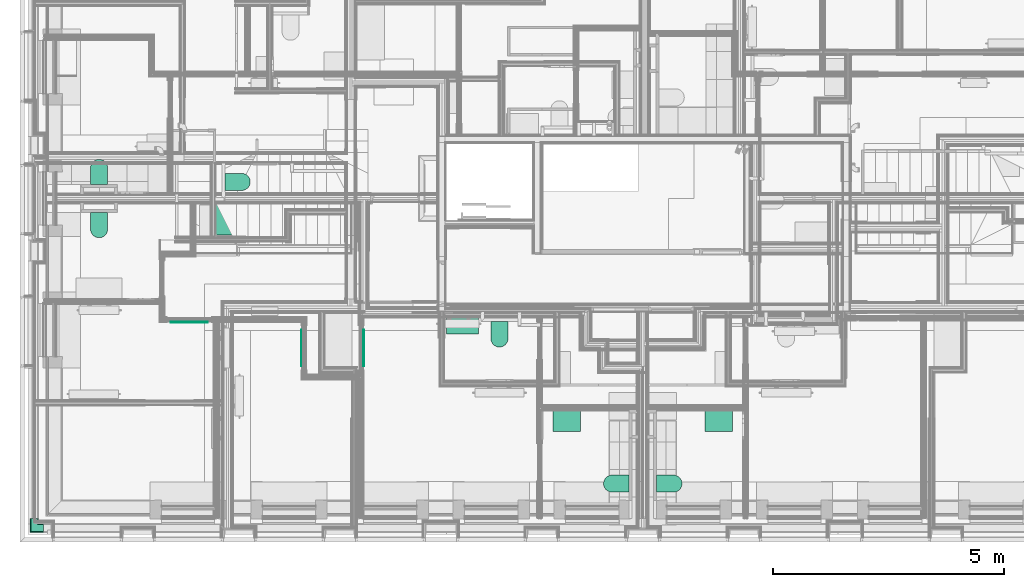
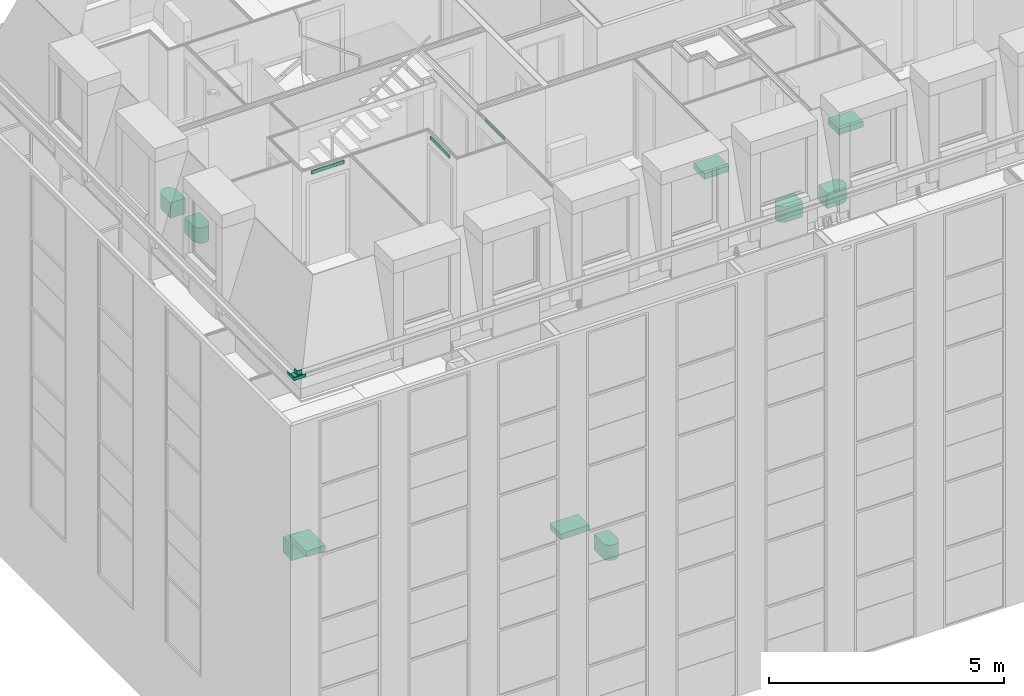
# One storey, part 155 of 169: 13 flow terminals, 1 flow fitting.
"""IFC2X3 building model written with IfcOpenShell, lengths in metres."""

from ifc_helpers import new_model, entity, si_unit, converted_unit, derived_unit, money_unit, direction, frame, origin_with_axes, place, context, subcontext, project, spatial, open_shell, faceted_brep, surface_model, material, type_object, element, save


model = new_model("IFC2X3")

# Units and contexts
model_context = context("Model", 3, precision=1e-05, world=origin_with_axes(), true_north=direction((0.0, 1.0)))
body_context = subcontext(model_context, "Body", "Model", "MODEL_VIEW", scale=1.0)
ifc_project = project(units=[si_unit("LENGTHUNIT", "METRE"), si_unit("AREAUNIT", "SQUARE_METRE"), si_unit("VOLUMEUNIT", "CUBIC_METRE"), si_unit("ABSORBEDDOSEUNIT", "GRAY"), si_unit("AMOUNTOFSUBSTANCEUNIT", "MOLE"), si_unit("DOSEEQUIVALENTUNIT", "SIEVERT"), si_unit("ELECTRICCAPACITANCEUNIT", "FARAD"), si_unit("ELECTRICCHARGEUNIT", "COULOMB"), si_unit("ELECTRICCONDUCTANCEUNIT", "SIEMENS"), si_unit("ELECTRICCURRENTUNIT", "AMPERE"), si_unit("ELECTRICRESISTANCEUNIT", "OHM"), si_unit("ELECTRICVOLTAGEUNIT", "VOLT"), si_unit("ENERGYUNIT", "JOULE"), si_unit("FORCEUNIT", "NEWTON"), si_unit("FREQUENCYUNIT", "HERTZ"), si_unit("ILLUMINANCEUNIT", "LUX"), si_unit("INDUCTANCEUNIT", "HENRY"), si_unit("LUMINOUSFLUXUNIT", "LUMEN"), si_unit("LUMINOUSINTENSITYUNIT", "CANDELA"), si_unit("MAGNETICFLUXDENSITYUNIT", "TESLA"), si_unit("MAGNETICFLUXUNIT", "WEBER"), si_unit("MASSUNIT", "GRAM"), converted_unit("PLANEANGLEUNIT", "degree", entity("IfcReal", 0.0174532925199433), si_unit("PLANEANGLEUNIT", "RADIAN"), dimensions=[0, 0, 0, 0, 0, 0, 0]), si_unit("POWERUNIT", "WATT"), si_unit("PRESSUREUNIT", "PASCAL"), si_unit("RADIOACTIVITYUNIT", "BECQUEREL"), si_unit("SOLIDANGLEUNIT", "STERADIAN"), si_unit("THERMODYNAMICTEMPERATUREUNIT", "KELVIN"), si_unit("TIMEUNIT", "SECOND"), derived_unit("ACCELERATIONUNIT", [(si_unit("LENGTHUNIT", "METRE"), 1), (si_unit("TIMEUNIT", "SECOND"), -2)]), derived_unit("ANGULARVELOCITYUNIT", [(converted_unit("PLANEANGLEUNIT", "degree", entity("IfcReal", 0.0174532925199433), si_unit("PLANEANGLEUNIT", "RADIAN"), dimensions=[0, 0, 0, 0, 0, 0, 0]), 1), (si_unit("TIMEUNIT", "SECOND"), -1)]), derived_unit("CURVATUREUNIT", [(converted_unit("PLANEANGLEUNIT", "degree", entity("IfcReal", 0.0174532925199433), si_unit("PLANEANGLEUNIT", "RADIAN"), dimensions=[0, 0, 0, 0, 0, 0, 0]), 1), (si_unit("LENGTHUNIT", "METRE"), -1)]), derived_unit("DYNAMICVISCOSITYUNIT", [(si_unit("PRESSUREUNIT", "PASCAL"), 1), (si_unit("TIMEUNIT", "SECOND"), 1)]), derived_unit("HEATFLUXDENSITYUNIT", [(si_unit("POWERUNIT", "WATT"), 1), (si_unit("LENGTHUNIT", "METRE"), -2)]), derived_unit("HEATINGVALUEUNIT", [(si_unit("ENERGYUNIT", "JOULE"), 1), (si_unit("MASSUNIT", "GRAM"), -1)]), derived_unit("INTEGERCOUNTRATEUNIT", [(si_unit("TIMEUNIT", "SECOND"), -1)]), derived_unit("IONCONCENTRATIONUNIT", [(si_unit("MASSUNIT", "GRAM"), 1), (si_unit("VOLUMEUNIT", "CUBIC_METRE"), -1)]), derived_unit("ISOTHERMALMOISTURECAPACITYUNIT", [(si_unit("VOLUMEUNIT", "CUBIC_METRE"), 1), (si_unit("MASSUNIT", "GRAM"), -1)]), derived_unit("KINEMATICVISCOSITYUNIT", [(si_unit("AREAUNIT", "SQUARE_METRE"), 1), (si_unit("TIMEUNIT", "SECOND"), -1)]), derived_unit("LINEARFORCEUNIT", [(si_unit("FORCEUNIT", "NEWTON"), 1), (si_unit("LENGTHUNIT", "METRE"), -1)]), derived_unit("LINEARMOMENTUNIT", [(si_unit("FORCEUNIT", "NEWTON"), 1), (si_unit("LENGTHUNIT", "METRE"), -1)]), derived_unit("LINEARSTIFFNESSUNIT", [(si_unit("FORCEUNIT", "NEWTON"), 1), (si_unit("LENGTHUNIT", "METRE"), -1)]), derived_unit("LINEARVELOCITYUNIT", [(si_unit("LENGTHUNIT", "METRE"), 1), (si_unit("TIMEUNIT", "SECOND"), -1)]), derived_unit("LUMINOUSINTENSITYDISTRIBUTIONUNIT", [(si_unit("LUMINOUSINTENSITYUNIT", "CANDELA"), 1), (si_unit("LUMINOUSFLUXUNIT", "LUMEN"), -1)]), derived_unit("MASSDENSITYUNIT", [(si_unit("MASSUNIT", "GRAM"), 1), (si_unit("VOLUMEUNIT", "CUBIC_METRE"), -1)]), derived_unit("MASSFLOWRATEUNIT", [(si_unit("MASSUNIT", "GRAM"), 1), (si_unit("TIMEUNIT", "SECOND"), -1)]), derived_unit("MASSPERLENGTHUNIT", [(si_unit("MASSUNIT", "GRAM"), 1), (si_unit("LENGTHUNIT", "METRE"), -1)]), derived_unit("MODULUSOFELASTICITYUNIT", [(si_unit("FORCEUNIT", "NEWTON"), 1), (si_unit("AREAUNIT", "SQUARE_METRE"), -1)]), derived_unit("MODULUSOFLINEARSUBGRADEREACTIONUNIT", [(si_unit("FORCEUNIT", "NEWTON"), 1), (si_unit("LENGTHUNIT", "METRE"), -2)]), derived_unit("MODULUSOFROTATIONALSUBGRADEREACTIONUNIT", [(si_unit("FORCEUNIT", "NEWTON"), 1), (si_unit("LENGTHUNIT", "METRE"), 1)]), derived_unit("MODULUSOFSUBGRADEREACTIONUNIT", [(si_unit("FORCEUNIT", "NEWTON"), 1), (si_unit("VOLUMEUNIT", "CUBIC_METRE"), -1)]), derived_unit("MOISTUREDIFFUSIVITYUNIT", [(si_unit("VOLUMEUNIT", "CUBIC_METRE"), 1), (si_unit("TIMEUNIT", "SECOND"), -1)]), derived_unit("MOLECULARWEIGHTUNIT", [(si_unit("MASSUNIT", "GRAM"), 1), (si_unit("AMOUNTOFSUBSTANCEUNIT", "MOLE"), -1)]), derived_unit("PLANARFORCEUNIT", [(si_unit("FORCEUNIT", "NEWTON"), 1), (si_unit("LENGTHUNIT", "METRE"), -2)]), derived_unit("ROTATIONALFREQUENCYUNIT", [(si_unit("TIMEUNIT", "SECOND"), -1)]), derived_unit("ROTATIONALMASSUNIT", [(si_unit("MASSUNIT", "GRAM"), 1), (si_unit("LENGTHUNIT", "METRE"), 2)]), derived_unit("ROTATIONALSTIFFNESSUNIT", [(si_unit("FORCEUNIT", "NEWTON"), 1), (si_unit("LENGTHUNIT", "METRE"), 1), (converted_unit("PLANEANGLEUNIT", "degree", entity("IfcReal", 0.0174532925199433), si_unit("PLANEANGLEUNIT", "RADIAN"), dimensions=[0, 0, 0, 0, 0, 0, 0]), -1)]), derived_unit("SECTIONAREAINTEGRALUNIT", [(si_unit("LENGTHUNIT", "METRE"), 5)]), derived_unit("SECTIONMODULUSUNIT", [(si_unit("LENGTHUNIT", "METRE"), 3)]), derived_unit("SHEARMODULUSUNIT", [(si_unit("FORCEUNIT", "NEWTON"), 1), (si_unit("AREAUNIT", "SQUARE_METRE"), -1)]), derived_unit("SOUNDPOWERUNIT", [(si_unit("ENERGYUNIT", "JOULE"), 1), (si_unit("TIMEUNIT", "SECOND"), -1)]), derived_unit("SPECIFICHEATCAPACITYUNIT", [(si_unit("FORCEUNIT", "NEWTON"), 1), (si_unit("MASSUNIT", "GRAM"), -1), (si_unit("THERMODYNAMICTEMPERATUREUNIT", "KELVIN"), -1)]), derived_unit("TEMPERATUREGRADIENTUNIT", [(si_unit("THERMODYNAMICTEMPERATUREUNIT", "KELVIN"), 1), (si_unit("LENGTHUNIT", "METRE"), -1)]), derived_unit("THERMALADMITTANCEUNIT", [(si_unit("POWERUNIT", "WATT"), 1), (si_unit("AREAUNIT", "SQUARE_METRE"), -1), (si_unit("THERMODYNAMICTEMPERATUREUNIT", "KELVIN"), -1)]), derived_unit("THERMALCONDUCTANCEUNIT", [(si_unit("POWERUNIT", "WATT"), 1), (si_unit("LENGTHUNIT", "METRE"), -1), (si_unit("THERMODYNAMICTEMPERATUREUNIT", "KELVIN"), -1)]), derived_unit("THERMALEXPANSIONCOEFFICIENTUNIT", [(si_unit("THERMODYNAMICTEMPERATUREUNIT", "KELVIN"), -1)]), derived_unit("THERMALRESISTANCEUNIT", [(si_unit("AREAUNIT", "SQUARE_METRE"), 1), (si_unit("POWERUNIT", "WATT"), -1)]), derived_unit("THERMALTRANSMITTANCEUNIT", [(si_unit("POWERUNIT", "WATT"), 1), (si_unit("AREAUNIT", "SQUARE_METRE"), -1), (si_unit("THERMODYNAMICTEMPERATUREUNIT", "KELVIN"), -1)]), derived_unit("TORQUEUNIT", [(si_unit("FORCEUNIT", "NEWTON"), 1), (si_unit("LENGTHUNIT", "METRE"), 1)]), derived_unit("VAPORPERMEABILITYUNIT", [(si_unit("MASSUNIT", "GRAM"), 1), (si_unit("TIMEUNIT", "SECOND"), -1)]), derived_unit("VOLUMETRICFLOWRATEUNIT", [(si_unit("VOLUMEUNIT", "CUBIC_METRE"), 1), (si_unit("TIMEUNIT", "SECOND"), -1)]), derived_unit("WARPINGCONSTANTUNIT", [(si_unit("LENGTHUNIT", "METRE"), 6)]), derived_unit("WARPINGMOMENTUNIT", [(si_unit("FORCEUNIT", "NEWTON"), 1), (si_unit("LENGTHUNIT", "METRE"), 2)]), money_unit("GBP")], contexts=[model_context])

# Site, building, storey, space
site_placement = place(None, origin_with_axes())
site = spatial("IfcSite", under=ifc_project, at=site_placement, Name="Site", CompositionType="ELEMENT")
building_placement = place(site_placement, origin_with_axes())
building = spatial("IfcBuilding", under=site, at=building_placement, Name="Building01", CompositionType="ELEMENT")
storey_placement = place(building_placement, frame((0.0, 0.0, 5.15), z_axis=(0.0, 0.0, 1.0), x_axis=(1.0, 0.0, 0.0)))
storey = spatial("IfcBuildingStorey", under=building, at=storey_placement, Name="1F", CompositionType="ELEMENT", Elevation=5.15)
space_1_placement = place(storey_placement, frame((12.175, 4.189428, 9.86), z_axis=(0.0, 0.0, 1.0), x_axis=(0.0, 1.0, 0.0)))
space_1 = spatial("IfcSpace", under=storey, at=space_1_placement, Name="25", CompositionType="ELEMENT", InteriorOrExteriorSpace="NOTDEFINED")

# Flow terminals
ifc_material_1 = material(Name="M_BSUK_Ventilation")
air_terminal_type = type_object("IfcAirTerminalType", Name="M-RectBarSlotsEndGrille-BarSlots", PredefinedType="REGISTER")
for number, where, z_axis, x_axis, name in (
    (1, (3.669976, 4.779939, 12.223), (0.0, 0.0, 1.0), (0.0, -1.0, 0.0), "M-RectBarSlotsEndGrille-BarSlots"),
    (2, (6.120098, 4.209939, 12.223), (0.0, 0.0, 1.0), (-1.0, 0.0, 0.0), "M-RectBarSlotsEndGrille-BarSlots"),
):
    element("IfcFlowTerminal", number, at=place(storey_placement, frame(where, z_axis=z_axis, x_axis=x_axis)), inside=space_1, type_object=air_terminal_type, material=ifc_material_1, Name=name, ObjectType="M-RectBarSlotsEndGrille-BarSlots", context=body_context, shape_type="SurfaceModel", body=[
        surface_model("IfcShellBasedSurfaceModel", [(0.02, -0.36, -0.0349), (0.02, -0.36, -0.036), (0.02, 0.36, -0.036), (0.02, 0.36, -0.0349), (0.02, -0.36, 0.036), (0.02, -0.36, 0.0349), (0.02, 0.36, 0.0349), (0.02, 0.36, 0.036), (0.02, -0.36, -0.0277), (0.02, -0.36, -0.0299), (0.02, 0.36, -0.0299), (0.02, 0.36, -0.0277), (0.02, -0.36, -0.0205), (0.02, -0.36, -0.0227), (0.02, 0.36, -0.0227), (0.02, 0.36, -0.0205), (0.02, -0.36, -0.0133), (0.02, -0.36, -0.0155), (0.02, 0.36, -0.0155), (0.02, 0.36, -0.0133), (0.02, -0.36, -0.0061), (0.02, -0.36, -0.0083), (0.02, 0.36, -0.0083), (0.02, 0.36, -0.0061), (0.02, -0.36, 0.0011), (0.02, -0.36, -0.0011), (0.02, 0.36, -0.0011), (0.02, 0.36, 0.0011), (0.02, -0.36, 0.0083), (0.02, -0.36, 0.0061), (0.02, 0.36, 0.0061), (0.02, 0.36, 0.0083), (0.02, -0.36, 0.0155), (0.02, -0.36, 0.0133), (0.02, 0.36, 0.0133), (0.02, 0.36, 0.0155), (0.02, -0.36, 0.0227), (0.02, -0.36, 0.0205), (0.02, 0.36, 0.0205), (0.02, 0.36, 0.0227), (0.02, -0.36, 0.0299), (0.02, -0.36, 0.0277), (0.02, 0.36, 0.0277), (0.02, 0.36, 0.0299), (0.02, -0.4, -0.04), (0.02, -0.4, 0.04), (0.0, -0.4, 0.04), (0.0, -0.4, -0.04), (0.02, 0.4, 0.04), (0.0, 0.4, 0.04), (0.02, 0.4, -0.04), (0.0, 0.4, -0.04)], [open_shell([[[0, 1, 2, 3]], [[4, 5, 6, 7]], [[8, 9, 10, 11]], [[12, 13, 14, 15]], [[16, 17, 18, 19]], [[20, 21, 22, 23]], [[24, 25, 26, 27]], [[28, 29, 30, 31]], [[32, 33, 34, 35]], [[36, 37, 38, 39]], [[40, 41, 42, 43]], [[44, 45, 46, 47]], [[45, 48, 49, 46]], [[50, 44, 47, 51]], [[48, 50, 51, 49]], [[44, 50, 48, 45], [7, 2, 1, 4]]])]),
    ])
flow_terminal_1_placement = place(storey_placement, frame((7.439998, 4.209939, 12.223), z_axis=(0.0, 0.0, 1.0), x_axis=(-1.0, 0.0, 0.0)))
element("IfcFlowTerminal", 3, at=flow_terminal_1_placement, inside=space_1, type_object=air_terminal_type, material=ifc_material_1, Name="M-RectBarSlotsEndGrille-BarSlots", ObjectType="M-RectBarSlotsEndGrille-BarSlots", context=body_context, shape_type="SurfaceModel", body=[
    surface_model("IfcShellBasedSurfaceModel", [(-0.02, -0.36, -0.0349), (-0.02, -0.36, -0.036), (-0.02, 0.36, -0.036), (-0.02, 0.36, -0.0349), (-0.02, -0.36, 0.036), (-0.02, -0.36, 0.0349), (-0.02, 0.36, 0.0349), (-0.02, 0.36, 0.036), (-0.02, -0.36, -0.0277), (-0.02, -0.36, -0.0299), (-0.02, 0.36, -0.0299), (-0.02, 0.36, -0.0277), (-0.02, -0.36, -0.0205), (-0.02, -0.36, -0.0227), (-0.02, 0.36, -0.0227), (-0.02, 0.36, -0.0205), (-0.02, -0.36, -0.0133), (-0.02, -0.36, -0.0155), (-0.02, 0.36, -0.0155), (-0.02, 0.36, -0.0133), (-0.02, -0.36, -0.0061), (-0.02, -0.36, -0.0083), (-0.02, 0.36, -0.0083), (-0.02, 0.36, -0.0061), (-0.02, -0.36, 0.0011), (-0.02, -0.36, -0.0011), (-0.02, 0.36, -0.0011), (-0.02, 0.36, 0.0011), (-0.02, -0.36, 0.0083), (-0.02, -0.36, 0.0061), (-0.02, 0.36, 0.0061), (-0.02, 0.36, 0.0083), (-0.02, -0.36, 0.0155), (-0.02, -0.36, 0.0133), (-0.02, 0.36, 0.0133), (-0.02, 0.36, 0.0155), (-0.02, -0.36, 0.0227), (-0.02, -0.36, 0.0205), (-0.02, 0.36, 0.0205), (-0.02, 0.36, 0.0227), (-0.02, -0.36, 0.0299), (-0.02, -0.36, 0.0277), (-0.02, 0.36, 0.0277), (-0.02, 0.36, 0.0299), (-0.02, -0.4, -0.04), (-0.02, -0.4, 0.04), (0.0, -0.4, 0.04), (0.0, -0.4, -0.04), (-0.02, 0.4, 0.04), (0.0, 0.4, 0.04), (-0.02, 0.4, -0.04), (0.0, 0.4, -0.04)], [open_shell([[[0, 1, 2, 3]], [[4, 5, 6, 7]], [[8, 9, 10, 11]], [[12, 13, 14, 15]], [[16, 17, 18, 19]], [[20, 21, 22, 23]], [[24, 25, 26, 27]], [[28, 29, 30, 31]], [[32, 33, 34, 35]], [[36, 37, 38, 39]], [[40, 41, 42, 43]], [[44, 45, 46, 47]], [[45, 48, 49, 46]], [[50, 44, 47, 51]], [[48, 50, 51, 49]], [[44, 50, 48, 45], [7, 2, 1, 4]]])]),
])

# Flow fitting
ifc_material_2 = material(Name="A_BSUK_RainwaterDrainageSystems")
pipe_fitting_type = type_object("IfcPipeFittingType", Name="A-RainwaterDrainageSystems-GutterCorner", PredefinedType="NOTDEFINED")
flow_fitting_placement = place(storey_placement, frame((0.514346, 0.514347, 10.629268), z_axis=(0.0, 0.0, 1.0), x_axis=(-1.0, 0.0, 0.0)))
element("IfcFlowFitting", 4, at=flow_fitting_placement, inside=storey, type_object=pipe_fitting_type, material=ifc_material_2, Name="A-RainwaterDrainageSystems-GutterCorner", ObjectType="A-RainwaterDrainageSystems-GutterCorner", context=body_context, shape_type="Brep", body=[
    faceted_brep([(0.111195, 1e-06, 0.099145), (0.116849, 1e-06, 0.099145), (0.129902, 1e-06, 0.0), (0.281294, 1e-06, 0.0), (0.294346, 1e-06, 0.099145), (0.3, 1e-06, 0.099145), (0.3, 1e-06, 0.100732), (0.292954, 1e-06, 0.100732), (0.279902, 1e-06, 0.001588), (0.131294, 1e-06, 0.001588), (0.118241, 1e-06, 0.100732), (0.111195, 1e-06, 0.100732), (0.0, 0.111195, 0.100732), (0.0, 0.118241, 0.100732), (0.0, 0.131294, 0.001588), (0.0, 0.279902, 0.001588), (0.0, 0.292954, 0.100732), (0.0, 0.300001, 0.100732), (0.0, 0.300001, 0.099145), (0.0, 0.294347, 0.099145), (0.0, 0.281294, 0.0), (0.0, 0.129902, 0.0), (0.0, 0.116849, 0.099145), (0.0, 0.111195, 0.099145), (0.111195, 0.111195, 0.100732), (0.111195, 0.111195, 0.099145), (0.118241, 0.118241, 0.100732), (0.131294, 0.131294, 0.001588), (0.279902, 0.279902, 0.001588), (0.292954, 0.292954, 0.100732), (0.3, 0.300001, 0.100732), (0.3, 0.300001, 0.099145), (0.294346, 0.294347, 0.099145), (0.281294, 0.281294, 0.0), (0.129902, 0.129902, 0.0), (0.116849, 0.116849, 0.099145)], [[[0, 1, 2, 3, 4, 5, 6, 7, 8, 9, 10, 11]], [[12, 13, 14, 15, 16, 17, 18, 19, 20, 21, 22, 23]], [[24, 12, 23, 25]], [[10, 26, 13, 12, 24, 11]], [[27, 14, 13, 26]], [[9, 27, 26, 10]], [[8, 28, 15, 14, 27, 9]], [[29, 16, 15, 28]], [[7, 29, 28, 8]], [[6, 30, 17, 16, 29, 7]], [[31, 18, 17, 30]], [[5, 31, 30, 6]], [[4, 32, 19, 18, 31, 5]], [[33, 20, 19, 32]], [[3, 33, 32, 4]], [[2, 34, 21, 20, 33, 3]], [[35, 22, 21, 34]], [[1, 35, 34, 2]], [[0, 25, 23, 22, 35, 1]], [[11, 24, 25, 0]]]),
])

# Space
space_2_placement = place(storey_placement, frame((17.73844, 7.349915, 9.86), z_axis=(0.0, 0.0, 1.0), x_axis=(0.0, -1.0, 0.0)))
space_2 = spatial("IfcSpace", under=storey, at=space_2_placement, Name="24", CompositionType="ELEMENT", InteriorOrExteriorSpace="NOTDEFINED")

# Flow terminals
sanitary_terminal_type_1 = type_object("IfcSanitaryTerminalType", Name="SHE_A-Sink_47x60", PredefinedType="NOTDEFINED")
flow_terminal_2_placement = place(storey_placement, frame((15.15, 2.634761, 10.650999), z_axis=(0.0, 0.0, 1.0), x_axis=(0.0, -1.0, 0.0)))
element("IfcFlowTerminal", 5, at=flow_terminal_2_placement, inside=space_2, type_object=sanitary_terminal_type_1, Name="24", ObjectType="SHE_A-Sink_47x60", context=body_context, shape_type="Brep", body=[
    faceted_brep([(-0.235, 0.3, -0.075), (-0.235, 0.3, 0.075), (0.235, 0.3, 0.075), (0.235, 0.3, -0.075), (0.235, -0.3, 0.075), (0.235, -0.3, -0.075), (-0.235, -0.3, 0.075), (-0.235, -0.3, -0.075)], [[[0, 1, 2, 3]], [[3, 2, 4, 5]], [[5, 4, 6, 7]], [[7, 6, 1, 0]], [[1, 6, 4, 2]], [[3, 5, 7, 0]]]),
])
flow_terminal_3_placement = place(storey_placement, frame((11.85, 2.634761, 10.650999), z_axis=(0.0, 0.0, 1.0), x_axis=(0.0, 1.0, 0.0)))
element("IfcFlowTerminal", 6, at=flow_terminal_3_placement, inside=space_1, type_object=sanitary_terminal_type_1, Name="25", ObjectType="SHE_A-Sink_47x60", context=body_context, shape_type="Brep", body=[
    faceted_brep([(-0.235, 0.3, -0.075), (-0.235, 0.3, 0.075), (0.235, 0.3, 0.075), (0.235, 0.3, -0.075), (-0.235, -0.3, -0.075), (-0.235, -0.3, 0.075), (0.235, -0.3, -0.075), (0.235, -0.3, 0.075)], [[[0, 1, 2, 3]], [[4, 5, 1, 0]], [[6, 7, 5, 4]], [[3, 2, 7, 6]], [[1, 5, 7, 2]], [[3, 6, 4, 0]]]),
])

# Space
space_3_placement = place(storey_placement, frame((12.15, 4.98, 0.017975), z_axis=(0.0, 0.0, 1.0), x_axis=(-1.0, 0.0, 0.0)))
space_3 = spatial("IfcSpace", under=storey, at=space_3_placement, Name="05", CompositionType="ELEMENT", InteriorOrExteriorSpace="NOTDEFINED")

# Flow terminal
sanitary_terminal_type_2 = type_object("IfcSanitaryTerminalType", Name="SHE_A-Toilet_base", PredefinedType="NOTDEFINED")
flow_terminal_4_placement = place(storey_placement, frame((10.392528, 4.504997, 0.2), z_axis=(0.0, 0.0, 1.0), x_axis=(0.0, -1.0, 0.0)))
element("IfcFlowTerminal", 7, at=flow_terminal_4_placement, inside=space_3, type_object=sanitary_terminal_type_2, Name="05", ObjectType="SHE_A-Toilet_base", context=body_context, shape_type="Brep", body=[
    faceted_brep([(0.089995, 0.185008, -0.2), (0.126088, 0.181454, -0.2), (0.160795, 0.170926, -0.2), (0.19278, 0.153829, -0.2), (0.220816, 0.130821, -0.2), (0.243824, 0.102785, -0.2), (0.26092, 0.0708, -0.2), (0.271448, 0.036093, -0.2), (0.275003, 0.0, -0.2), (0.271448, -0.036093, -0.2), (0.26092, -0.0708, -0.2), (0.243824, -0.102785, -0.2), (0.220816, -0.130821, -0.2), (0.19278, -0.153829, -0.2), (0.160795, -0.170926, -0.2), (0.126088, -0.181454, -0.2), (0.089995, -0.185009, -0.2), (-0.275003, -0.185009, -0.2), (-0.275003, 0.185008, -0.2), (-0.275003, 0.185008, 0.2), (-0.275003, -0.185009, 0.2), (0.089995, -0.185009, 0.2), (0.126088, -0.181454, 0.2), (0.160795, -0.170926, 0.2), (0.19278, -0.153829, 0.2), (0.220816, -0.130821, 0.2), (0.243824, -0.102785, 0.2), (0.26092, -0.0708, 0.2), (0.271448, -0.036093, 0.2), (0.275003, 0.0, 0.2), (0.271448, 0.036093, 0.2), (0.26092, 0.0708, 0.2), (0.243824, 0.102785, 0.2), (0.220816, 0.130821, 0.2), (0.19278, 0.153829, 0.2), (0.160795, 0.170926, 0.2), (0.126088, 0.181454, 0.2), (0.089995, 0.185008, 0.2)], [[[0, 1, 2, 3, 4, 5, 6, 7, 8, 9, 10, 11, 12, 13, 14, 15, 16, 17, 18]], [[19, 20, 21, 22, 23, 24, 25, 26, 27, 28, 29, 30, 31, 32, 33, 34, 35, 36, 37]], [[15, 22, 21, 16]], [[14, 23, 22, 15]], [[13, 24, 23, 14]], [[12, 25, 24, 13]], [[11, 26, 25, 12]], [[10, 27, 26, 11]], [[9, 28, 27, 10]], [[8, 29, 28, 9]], [[7, 30, 29, 8]], [[6, 31, 30, 7]], [[5, 32, 31, 6]], [[4, 33, 32, 5]], [[3, 34, 33, 4]], [[2, 35, 34, 3]], [[1, 36, 35, 2]], [[0, 37, 36, 1]], [[16, 21, 20, 17]], [[17, 20, 19, 18]], [[18, 19, 37, 0]]]),
])

# Space
space_4_placement = place(storey_placement, frame((0.318, 8.21067, 0.017975), z_axis=(0.0, 0.0, 1.0), x_axis=(0.0, -1.0, 0.0)))
space_4 = spatial("IfcSpace", under=storey, at=space_4_placement, Name="06", CompositionType="ELEMENT", InteriorOrExteriorSpace="NOTDEFINED")

# Flow terminal
flow_terminal_5_placement = place(storey_placement, frame((4.715733, 7.810661, 0.2), z_axis=(0.0, 0.0, 1.0), x_axis=(1.0, 0.0, 0.0)))
element("IfcFlowTerminal", 8, at=flow_terminal_5_placement, inside=space_4, type_object=sanitary_terminal_type_2, Name="06", ObjectType="SHE_A-Toilet_base", context=body_context, shape_type="Brep", body=[
    faceted_brep([(0.089995, 0.185008, -0.2), (0.126088, 0.181454, -0.2), (0.160795, 0.170926, -0.2), (0.19278, 0.153829, -0.2), (0.220816, 0.130821, -0.2), (0.243824, 0.102785, -0.2), (0.26092, 0.0708, -0.2), (0.271448, 0.036093, -0.2), (0.275003, 0.0, -0.2), (0.271448, -0.036093, -0.2), (0.26092, -0.0708, -0.2), (0.243824, -0.102785, -0.2), (0.220816, -0.130821, -0.2), (0.19278, -0.153829, -0.2), (0.160795, -0.170926, -0.2), (0.126088, -0.181454, -0.2), (0.089995, -0.185009, -0.2), (-0.275003, -0.185009, -0.2), (-0.275003, 0.185008, -0.2), (-0.275003, 0.185008, 0.2), (-0.275003, -0.185009, 0.2), (0.089995, -0.185009, 0.2), (0.126088, -0.181454, 0.2), (0.160795, -0.170926, 0.2), (0.19278, -0.153829, 0.2), (0.220816, -0.130821, 0.2), (0.243824, -0.102785, 0.2), (0.26092, -0.0708, 0.2), (0.271448, -0.036093, 0.2), (0.275003, 0.0, 0.2), (0.271448, 0.036093, 0.2), (0.26092, 0.0708, 0.2), (0.243824, 0.102785, 0.2), (0.220816, 0.130821, 0.2), (0.19278, 0.153829, 0.2), (0.160795, 0.170926, 0.2), (0.126088, 0.181454, 0.2), (0.089995, 0.185008, 0.2)], [[[0, 1, 2, 3, 4, 5, 6, 7, 8, 9, 10, 11, 12, 13, 14, 15, 16, 17, 18]], [[19, 20, 21, 22, 23, 24, 25, 26, 27, 28, 29, 30, 31, 32, 33, 34, 35, 36, 37]], [[15, 22, 21, 16]], [[14, 23, 22, 15]], [[13, 24, 23, 14]], [[12, 25, 24, 13]], [[11, 26, 25, 12]], [[10, 27, 26, 11]], [[9, 28, 27, 10]], [[8, 29, 28, 9]], [[7, 30, 29, 8]], [[6, 31, 30, 7]], [[5, 32, 31, 6]], [[4, 33, 32, 5]], [[3, 34, 33, 4]], [[2, 35, 34, 3]], [[1, 36, 35, 2]], [[0, 37, 36, 1]], [[16, 21, 20, 17]], [[17, 20, 19, 18]], [[18, 19, 37, 0]]]),
])

# Space
space_5_placement = place(storey_placement, frame((3.039976, 6.279939, 9.86), z_axis=(0.0, 0.0, 1.0), x_axis=(1.0, 0.0, 0.0)))
space_5 = spatial("IfcSpace", under=storey, at=space_5_placement, Name="bath", CompositionType="ELEMENT", InteriorOrExteriorSpace="NOTDEFINED")

# Flow terminal
flow_terminal_6_placement = place(storey_placement, frame((1.715102, 6.874935, 10.03), z_axis=(0.0, 0.0, 1.0), x_axis=(0.0, -1.0, 0.0)))
element("IfcFlowTerminal", 9, at=flow_terminal_6_placement, inside=space_5, type_object=sanitary_terminal_type_2, Name="25", ObjectType="SHE_A-Toilet_base", context=body_context, shape_type="Brep", body=[
    faceted_brep([(0.089995, 0.185008, -0.2), (0.126088, 0.181454, -0.2), (0.160795, 0.170926, -0.2), (0.19278, 0.153829, -0.2), (0.220816, 0.130821, -0.2), (0.243824, 0.102785, -0.2), (0.26092, 0.0708, -0.2), (0.271448, 0.036093, -0.2), (0.275003, 0.0, -0.2), (0.271448, -0.036093, -0.2), (0.26092, -0.0708, -0.2), (0.243824, -0.102785, -0.2), (0.220816, -0.130821, -0.2), (0.19278, -0.153829, -0.2), (0.160795, -0.170926, -0.2), (0.126088, -0.181454, -0.2), (0.089995, -0.185009, -0.2), (-0.275003, -0.185009, -0.2), (-0.275003, 0.185008, -0.2), (-0.275003, 0.185008, 0.2), (-0.275003, -0.185009, 0.2), (0.089995, -0.185009, 0.2), (0.126088, -0.181454, 0.2), (0.160795, -0.170926, 0.2), (0.19278, -0.153829, 0.2), (0.220816, -0.130821, 0.2), (0.243824, -0.102785, 0.2), (0.26092, -0.0708, 0.2), (0.271448, -0.036093, 0.2), (0.275003, 0.0, 0.2), (0.271448, 0.036093, 0.2), (0.26092, 0.0708, 0.2), (0.243824, 0.102785, 0.2), (0.220816, 0.130821, 0.2), (0.19278, 0.153829, 0.2), (0.160795, 0.170926, 0.2), (0.126088, 0.181454, 0.2), (0.089995, 0.185008, 0.2)], [[[0, 1, 2, 3, 4, 5, 6, 7, 8, 9, 10, 11, 12, 13, 14, 15, 16, 17, 18]], [[19, 20, 21, 22, 23, 24, 25, 26, 27, 28, 29, 30, 31, 32, 33, 34, 35, 36, 37]], [[15, 22, 21, 16]], [[14, 23, 22, 15]], [[13, 24, 23, 14]], [[12, 25, 24, 13]], [[11, 26, 25, 12]], [[10, 27, 26, 11]], [[9, 28, 27, 10]], [[8, 29, 28, 9]], [[7, 30, 29, 8]], [[6, 31, 30, 7]], [[5, 32, 31, 6]], [[4, 33, 32, 5]], [[3, 34, 33, 4]], [[2, 35, 34, 3]], [[1, 36, 35, 2]], [[0, 37, 36, 1]], [[16, 21, 20, 17]], [[17, 20, 19, 18]], [[18, 19, 37, 0]]]),
])

# Space
space_6_placement = place(storey_placement, frame((15.69, 2.869761, 9.86), z_axis=(0.0, 0.0, 1.0), x_axis=(-1.0, 0.0, 0.0)))
space_6 = spatial("IfcSpace", under=storey, at=space_6_placement, Name="ensuite", CompositionType="ELEMENT", InteriorOrExteriorSpace="NOTDEFINED")

# Flow terminal
flow_terminal_7_placement = place(storey_placement, frame((14.075001, 1.269753, 10.026), z_axis=(0.0, 0.0, 1.0), x_axis=(-1.0, 0.0, 0.0)))
element("IfcFlowTerminal", 10, at=flow_terminal_7_placement, inside=space_6, type_object=sanitary_terminal_type_2, Name="24", ObjectType="SHE_A-Toilet_base", context=body_context, shape_type="Brep", body=[
    faceted_brep([(0.275003, 0.185008, -0.2), (0.275003, -0.185009, -0.2), (-0.089995, -0.185009, -0.2), (-0.126088, -0.181454, -0.2), (-0.160795, -0.170926, -0.2), (-0.19278, -0.153829, -0.2), (-0.220816, -0.130821, -0.2), (-0.243824, -0.102785, -0.2), (-0.26092, -0.0708, -0.2), (-0.271448, -0.036093, -0.2), (-0.275003, 0.0, -0.2), (-0.271448, 0.036093, -0.2), (-0.26092, 0.0708, -0.2), (-0.243824, 0.102785, -0.2), (-0.220816, 0.130821, -0.2), (-0.19278, 0.153829, -0.2), (-0.160795, 0.170926, -0.2), (-0.126088, 0.181454, -0.2), (-0.089995, 0.185008, -0.2), (-0.089995, 0.185008, 0.2), (-0.126088, 0.181454, 0.2), (-0.160795, 0.170926, 0.2), (-0.19278, 0.153829, 0.2), (-0.220816, 0.130821, 0.2), (-0.243824, 0.102785, 0.2), (-0.26092, 0.0708, 0.2), (-0.271448, 0.036093, 0.2), (-0.275003, 0.0, 0.2), (-0.271448, -0.036093, 0.2), (-0.26092, -0.0708, 0.2), (-0.243824, -0.102785, 0.2), (-0.220816, -0.130821, 0.2), (-0.19278, -0.153829, 0.2), (-0.160795, -0.170926, 0.2), (-0.126088, -0.181454, 0.2), (-0.089995, -0.185009, 0.2), (0.275003, -0.185009, 0.2), (0.275003, 0.185008, 0.2)], [[[0, 1, 2, 3, 4, 5, 6, 7, 8, 9, 10, 11, 12, 13, 14, 15, 16, 17, 18]], [[19, 20, 21, 22, 23, 24, 25, 26, 27, 28, 29, 30, 31, 32, 33, 34, 35, 36, 37]], [[2, 35, 34, 3]], [[3, 34, 33, 4]], [[4, 33, 32, 5]], [[5, 32, 31, 6]], [[6, 31, 30, 7]], [[7, 30, 29, 8]], [[8, 29, 28, 9]], [[9, 28, 27, 10]], [[10, 27, 26, 11]], [[11, 26, 25, 12]], [[12, 25, 24, 13]], [[13, 24, 23, 14]], [[14, 23, 22, 15]], [[15, 22, 21, 16]], [[16, 21, 20, 17]], [[17, 20, 19, 18]], [[1, 36, 35, 2]], [[0, 37, 36, 1]], [[18, 19, 37, 0]]]),
])

# Space
space_7_placement = place(storey_placement, frame((11.31, 1.009621, 9.86), z_axis=(0.0, 0.0, 1.0), x_axis=(1.0, 0.0, 0.0)))
space_7 = spatial("IfcSpace", under=storey, at=space_7_placement, Name="ensuite", CompositionType="ELEMENT", InteriorOrExteriorSpace="NOTDEFINED")

# Flow terminal
flow_terminal_8_placement = place(storey_placement, frame((12.924999, 1.269753, 10.026), z_axis=(0.0, 0.0, 1.0), x_axis=(-1.0, 0.0, 0.0)))
element("IfcFlowTerminal", 11, at=flow_terminal_8_placement, inside=space_7, type_object=sanitary_terminal_type_2, Name="25", ObjectType="SHE_A-Toilet_base", context=body_context, shape_type="Brep", body=[
    faceted_brep([(0.089995, 0.185008, -0.2), (0.126088, 0.181454, -0.2), (0.160795, 0.170926, -0.2), (0.19278, 0.153829, -0.2), (0.220816, 0.130821, -0.2), (0.243824, 0.102785, -0.2), (0.26092, 0.0708, -0.2), (0.271448, 0.036093, -0.2), (0.275003, 0.0, -0.2), (0.271448, -0.036093, -0.2), (0.26092, -0.0708, -0.2), (0.243824, -0.102785, -0.2), (0.220816, -0.130821, -0.2), (0.19278, -0.153829, -0.2), (0.160795, -0.170926, -0.2), (0.126088, -0.181454, -0.2), (0.089995, -0.185009, -0.2), (-0.275003, -0.185009, -0.2), (-0.275003, 0.185008, -0.2), (-0.275003, 0.185008, 0.2), (-0.275003, -0.185009, 0.2), (0.089995, -0.185009, 0.2), (0.126088, -0.181454, 0.2), (0.160795, -0.170926, 0.2), (0.19278, -0.153829, 0.2), (0.220816, -0.130821, 0.2), (0.243824, -0.102785, 0.2), (0.26092, -0.0708, 0.2), (0.271448, -0.036093, 0.2), (0.275003, 0.0, 0.2), (0.271448, 0.036093, 0.2), (0.26092, 0.0708, 0.2), (0.243824, 0.102785, 0.2), (0.220816, 0.130821, 0.2), (0.19278, 0.153829, 0.2), (0.160795, 0.170926, 0.2), (0.126088, 0.181454, 0.2), (0.089995, 0.185008, 0.2)], [[[0, 1, 2, 3, 4, 5, 6, 7, 8, 9, 10, 11, 12, 13, 14, 15, 16, 17, 18]], [[19, 20, 21, 22, 23, 24, 25, 26, 27, 28, 29, 30, 31, 32, 33, 34, 35, 36, 37]], [[15, 22, 21, 16]], [[14, 23, 22, 15]], [[13, 24, 23, 14]], [[12, 25, 24, 13]], [[11, 26, 25, 12]], [[10, 27, 26, 11]], [[9, 28, 27, 10]], [[8, 29, 28, 9]], [[7, 30, 29, 8]], [[6, 31, 30, 7]], [[5, 32, 31, 6]], [[4, 33, 32, 5]], [[3, 34, 33, 4]], [[2, 35, 34, 3]], [[1, 36, 35, 2]], [[0, 37, 36, 1]], [[16, 21, 20, 17]], [[17, 20, 19, 18]], [[18, 19, 37, 0]]]),
])

# Space
space_8_placement = place(storey_placement, frame((2.82, 10.899915, 9.86), z_axis=(0.0, 0.0, 1.0), x_axis=(-1.0, 0.0, 0.0)))
space_8 = spatial("IfcSpace", under=storey, at=space_8_placement, Name="bath", CompositionType="ELEMENT", InteriorOrExteriorSpace="NOTDEFINED")

# Flow terminals
flow_terminal_9_placement = place(storey_placement, frame((1.715102, 8.025065, 10.03), z_axis=(0.0, 0.0, 1.0), x_axis=(0.0, -1.0, 0.0)))
element("IfcFlowTerminal", 12, at=flow_terminal_9_placement, inside=space_8, type_object=sanitary_terminal_type_2, Name="26", ObjectType="SHE_A-Toilet_base", context=body_context, shape_type="Brep", body=[
    faceted_brep([(0.275003, 0.185008, -0.2), (0.275003, -0.185009, -0.2), (-0.089995, -0.185009, -0.2), (-0.126088, -0.181454, -0.2), (-0.160795, -0.170926, -0.2), (-0.19278, -0.153829, -0.2), (-0.220816, -0.130821, -0.2), (-0.243824, -0.102785, -0.2), (-0.26092, -0.0708, -0.2), (-0.271448, -0.036093, -0.2), (-0.275003, 0.0, -0.2), (-0.271448, 0.036093, -0.2), (-0.26092, 0.0708, -0.2), (-0.243824, 0.102785, -0.2), (-0.220816, 0.130821, -0.2), (-0.19278, 0.153829, -0.2), (-0.160795, 0.170926, -0.2), (-0.126088, 0.181454, -0.2), (-0.089995, 0.185008, -0.2), (-0.089995, 0.185008, 0.2), (-0.126088, 0.181454, 0.2), (-0.160795, 0.170926, 0.2), (-0.19278, 0.153829, 0.2), (-0.220816, 0.130821, 0.2), (-0.243824, 0.102785, 0.2), (-0.26092, 0.0708, 0.2), (-0.271448, 0.036093, 0.2), (-0.275003, 0.0, 0.2), (-0.271448, -0.036093, 0.2), (-0.26092, -0.0708, 0.2), (-0.243824, -0.102785, 0.2), (-0.220816, -0.130821, 0.2), (-0.19278, -0.153829, 0.2), (-0.160795, -0.170926, 0.2), (-0.126088, -0.181454, 0.2), (-0.089995, -0.185009, 0.2), (0.275003, -0.185009, 0.2), (0.275003, 0.185008, 0.2)], [[[0, 1, 2, 3, 4, 5, 6, 7, 8, 9, 10, 11, 12, 13, 14, 15, 16, 17, 18]], [[19, 20, 21, 22, 23, 24, 25, 26, 27, 28, 29, 30, 31, 32, 33, 34, 35, 36, 37]], [[2, 35, 34, 3]], [[3, 34, 33, 4]], [[4, 33, 32, 5]], [[5, 32, 31, 6]], [[6, 31, 30, 7]], [[7, 30, 29, 8]], [[8, 29, 28, 9]], [[9, 28, 27, 10]], [[10, 27, 26, 11]], [[11, 26, 25, 12]], [[12, 25, 24, 13]], [[13, 24, 23, 14]], [[14, 23, 22, 15]], [[15, 22, 21, 16]], [[16, 21, 20, 17]], [[17, 20, 19, 18]], [[1, 36, 35, 2]], [[0, 37, 36, 1]], [[18, 19, 37, 0]]]),
])
sanitary_terminal_type_3 = type_object("IfcSanitaryTerminalType", Name="SHE_A-Sink_47x70", PredefinedType="NOTDEFINED")
flow_terminal_10_placement = place(storey_placement, frame((9.592536, 4.745, 0.825), z_axis=(0.0, 0.0, 1.0), x_axis=(0.0, 1.0, 0.0)))
element("IfcFlowTerminal", 13, at=flow_terminal_10_placement, inside=space_3, type_object=sanitary_terminal_type_3, Name="05", ObjectType="SHE_A-Sink_47x70", context=body_context, shape_type="Brep", body=[
    faceted_brep([(-0.235, 0.35, -0.075), (-0.235, 0.35, 0.075), (0.235, 0.35, 0.075), (0.235, 0.35, -0.075), (-0.235, -0.35, -0.075), (-0.235, -0.35, 0.075), (0.235, -0.35, -0.075), (0.235, -0.35, 0.075)], [[[0, 1, 2, 3]], [[4, 5, 1, 0]], [[6, 7, 5, 4]], [[3, 2, 7, 6]], [[1, 5, 7, 2]], [[3, 6, 4, 0]]]),
])

# Space
space_9_placement = place(storey_placement, frame((4.24073, 6.606475, 0.017975), z_axis=(0.0, 0.0, 1.0), x_axis=(1.0, 0.0, 0.0)))
space_9 = spatial("IfcSpace", under=storey, at=space_9_placement, Name="bath", CompositionType="ELEMENT", InteriorOrExteriorSpace="NOTDEFINED")

# Flow terminal
flow_terminal_11_placement = place(storey_placement, frame((4.47573, 7.010669, 0.825), z_axis=(0.0, 0.0, 1.0), x_axis=(-1.0, 0.0, 0.0)))
element("IfcFlowTerminal", 14, at=flow_terminal_11_placement, inside=space_9, type_object=sanitary_terminal_type_3, Name="06", ObjectType="SHE_A-Sink_47x70", context=body_context, shape_type="Brep", body=[
    faceted_brep([(-0.235, 0.35, -0.075), (-0.235, 0.35, 0.075), (0.235, 0.35, 0.075), (0.235, 0.35, -0.075), (-0.235, -0.35, -0.075), (-0.235, -0.35, 0.075), (0.235, -0.35, -0.075), (0.235, -0.35, 0.075)], [[[0, 1, 2, 3]], [[4, 5, 1, 0]], [[6, 7, 5, 4]], [[3, 2, 7, 6]], [[1, 5, 7, 2]], [[3, 6, 4, 0]]]),
])

save(model, "model.ifc")
